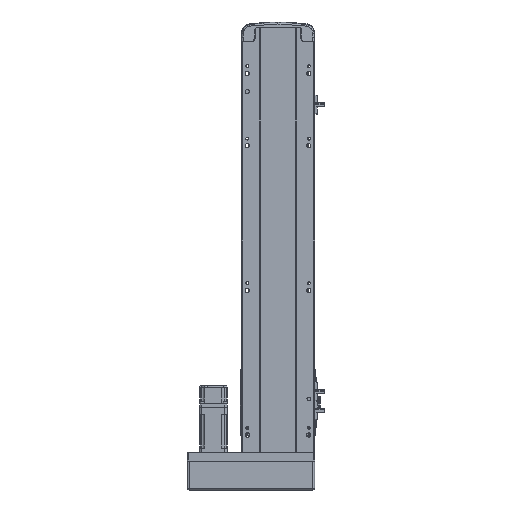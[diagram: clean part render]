
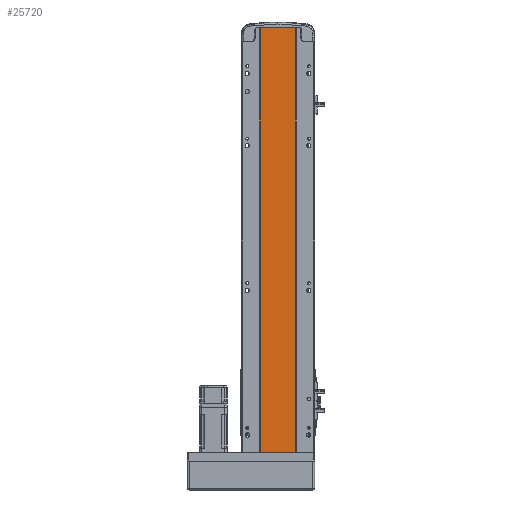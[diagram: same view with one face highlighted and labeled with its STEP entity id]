
A CAD part, front view. The second image highlights one B-rep face of the part: STEP entity #25720.
In plain terms, the highlighted planar face has unit normal (0, -1, 0).
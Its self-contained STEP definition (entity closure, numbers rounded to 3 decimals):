
#183 = EDGE_CURVE ( 'NONE', #46904, #7622, #44632, .T. ) ;
#2706 = CARTESIAN_POINT ( 'NONE',  ( 0., 2., 0. ) ) ;
#3021 = EDGE_CURVE ( 'NONE', #7622, #36421, #3497, .T. ) ;
#3497 = LINE ( 'NONE', #2706, #40885 ) ;
#4502 = VECTOR ( 'NONE', #18734, 1000. ) ;
#4997 = AXIS2_PLACEMENT_3D ( 'NONE', #29392, #25330, #7334 ) ;
#7334 = DIRECTION ( 'NONE',  ( 0., 0., 1. ) ) ;
#7622 = VERTEX_POINT ( 'NONE', #46591 ) ;
#10520 = CARTESIAN_POINT ( 'NONE',  ( -24.5, 2., 587. ) ) ;
#11622 = DIRECTION ( 'NONE',  ( 1., 0., 0. ) ) ;
#13964 = EDGE_CURVE ( 'NONE', #40181, #36421, #53655, .T. ) ;
#14896 = VECTOR ( 'NONE', #44875, 1000. ) ;
#16845 = CARTESIAN_POINT ( 'NONE',  ( -24.5, 2., 587. ) ) ;
#17223 = LINE ( 'NONE', #16845, #52527 ) ;
#18734 = DIRECTION ( 'NONE',  ( 0., 0., -1. ) ) ;
#19564 = ORIENTED_EDGE ( 'NONE', *, *, #49980, .F. ) ;
#22167 = ORIENTED_EDGE ( 'NONE', *, *, #3021, .T. ) ;
#25330 = DIRECTION ( 'NONE',  ( 0., 1., 0. ) ) ;
#25533 = PLANE ( 'NONE',  #4997 ) ;
#25720 = ADVANCED_FACE ( 'NONE', ( #42558 ), #25533, .F. ) ;
#29392 = CARTESIAN_POINT ( 'NONE',  ( 0., 2., 587. ) ) ;
#36150 = CARTESIAN_POINT ( 'NONE',  ( 24.5, 2., 587. ) ) ;
#36206 = CARTESIAN_POINT ( 'NONE',  ( 24.5, 2., 0. ) ) ;
#36387 = CARTESIAN_POINT ( 'NONE',  ( -24.5, 2., 587. ) ) ;
#36421 = VERTEX_POINT ( 'NONE', #36206 ) ;
#36476 = ORIENTED_EDGE ( 'NONE', *, *, #183, .T. ) ;
#37779 = CARTESIAN_POINT ( 'NONE',  ( 24.5, 2., 587. ) ) ;
#37797 = ORIENTED_EDGE ( 'NONE', *, *, #13964, .F. ) ;
#40181 = VERTEX_POINT ( 'NONE', #37779 ) ;
#40254 = DIRECTION ( 'NONE',  ( 1., 0., 0. ) ) ;
#40885 = VECTOR ( 'NONE', #11622, 1000. ) ;
#42558 = FACE_OUTER_BOUND ( 'NONE', #49044, .T. ) ;
#44632 = LINE ( 'NONE', #36387, #14896 ) ;
#44875 = DIRECTION ( 'NONE',  ( 0., 0., -1. ) ) ;
#46591 = CARTESIAN_POINT ( 'NONE',  ( -24.5, 2., 0. ) ) ;
#46904 = VERTEX_POINT ( 'NONE', #10520 ) ;
#49044 = EDGE_LOOP ( 'NONE', ( #22167, #37797, #19564, #36476 ) ) ;
#49980 = EDGE_CURVE ( 'NONE', #46904, #40181, #17223, .T. ) ;
#52527 = VECTOR ( 'NONE', #40254, 1000. ) ;
#53655 = LINE ( 'NONE', #36150, #4502 ) ;
